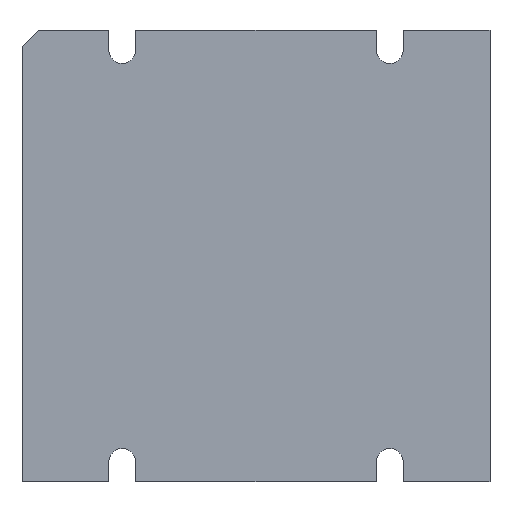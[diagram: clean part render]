
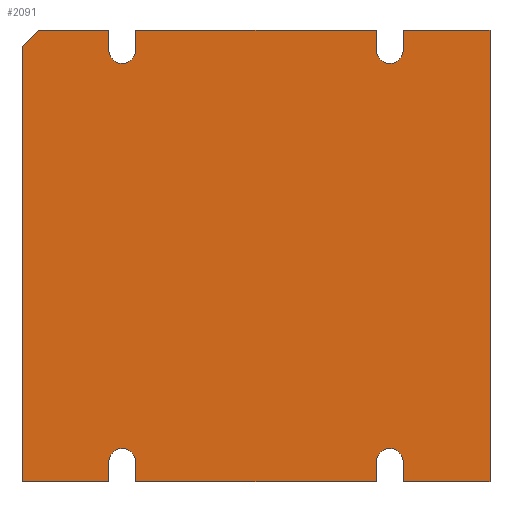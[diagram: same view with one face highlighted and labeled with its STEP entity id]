
A CAD part, front view. The second image highlights one B-rep face of the part: STEP entity #2091.
In plain terms, the highlighted planar face has unit normal (0, -1, 0).
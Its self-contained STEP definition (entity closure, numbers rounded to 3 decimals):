
#46=CIRCLE('',#2254,1.65);
#47=CIRCLE('',#2259,1.65);
#49=CIRCLE('',#2263,1.65);
#50=CIRCLE('',#2270,1.65);
#186=FACE_OUTER_BOUND('',#315,.T.);
#315=EDGE_LOOP('',(#1541,#1542,#1543,#1544,#1545,#1546,#1547,#1548,#1549,
#1550,#1551,#1552,#1553,#1554,#1555,#1556,#1557,#1558,#1559,#1560,#1561));
#473=LINE('',#3222,#687);
#475=LINE('',#3226,#689);
#478=LINE('',#3234,#692);
#480=LINE('',#3238,#694);
#484=LINE('',#3246,#698);
#489=LINE('',#3260,#703);
#492=LINE('',#3268,#706);
#494=LINE('',#3272,#708);
#496=LINE('',#3276,#710);
#498=LINE('',#3279,#712);
#500=LINE('',#3285,#714);
#508=LINE('',#3302,#722);
#513=LINE('',#3317,#727);
#519=LINE('',#3329,#733);
#521=LINE('',#3333,#735);
#522=LINE('',#3335,#736);
#523=LINE('',#3336,#737);
#687=VECTOR('',#2574,10.);
#689=VECTOR('',#2578,10.);
#692=VECTOR('',#2587,10.);
#694=VECTOR('',#2591,10.);
#698=VECTOR('',#2597,10.);
#703=VECTOR('',#2610,10.);
#706=VECTOR('',#2619,10.);
#708=VECTOR('',#2623,10.);
#710=VECTOR('',#2627,10.);
#712=VECTOR('',#2631,10.);
#714=VECTOR('',#2635,10.);
#722=VECTOR('',#2653,10.);
#727=VECTOR('',#2668,10.);
#733=VECTOR('',#2678,10.);
#735=VECTOR('',#2682,10.);
#736=VECTOR('',#2683,10.);
#737=VECTOR('',#2684,10.);
#894=VERTEX_POINT('',#3219);
#895=VERTEX_POINT('',#3221);
#896=VERTEX_POINT('',#3225);
#897=VERTEX_POINT('',#3229);
#898=VERTEX_POINT('',#3233);
#899=VERTEX_POINT('',#3237);
#902=VERTEX_POINT('',#3245);
#904=VERTEX_POINT('',#3251);
#906=VERTEX_POINT('',#3257);
#907=VERTEX_POINT('',#3259);
#908=VERTEX_POINT('',#3263);
#909=VERTEX_POINT('',#3267);
#910=VERTEX_POINT('',#3271);
#911=VERTEX_POINT('',#3275);
#913=VERTEX_POINT('',#3282);
#914=VERTEX_POINT('',#3284);
#917=VERTEX_POINT('',#3291);
#923=VERTEX_POINT('',#3316);
#926=VERTEX_POINT('',#3326);
#928=VERTEX_POINT('',#3332);
#929=VERTEX_POINT('',#3334);
#1109=EDGE_CURVE('',#894,#895,#473,.T.);
#1111=EDGE_CURVE('',#896,#895,#475,.T.);
#1113=EDGE_CURVE('',#897,#896,#46,.T.);
#1115=EDGE_CURVE('',#898,#897,#478,.T.);
#1117=EDGE_CURVE('',#898,#899,#480,.T.);
#1121=EDGE_CURVE('',#902,#899,#484,.T.);
#1124=EDGE_CURVE('',#904,#902,#47,.T.);
#1128=EDGE_CURVE('',#907,#906,#489,.T.);
#1130=EDGE_CURVE('',#908,#907,#49,.T.);
#1132=EDGE_CURVE('',#909,#908,#492,.T.);
#1134=EDGE_CURVE('',#909,#910,#494,.T.);
#1136=EDGE_CURVE('',#910,#911,#496,.T.);
#1138=EDGE_CURVE('',#911,#894,#498,.T.);
#1140=EDGE_CURVE('',#914,#913,#500,.T.);
#1144=EDGE_CURVE('',#913,#917,#50,.T.);
#1150=EDGE_CURVE('',#914,#906,#508,.T.);
#1157=EDGE_CURVE('',#923,#904,#513,.T.);
#1163=EDGE_CURVE('',#917,#926,#519,.T.);
#1165=EDGE_CURVE('',#928,#926,#521,.T.);
#1166=EDGE_CURVE('',#929,#928,#522,.T.);
#1167=EDGE_CURVE('',#923,#929,#523,.T.);
#1541=ORIENTED_EDGE('',*,*,#1138,.F.);
#1542=ORIENTED_EDGE('',*,*,#1136,.F.);
#1543=ORIENTED_EDGE('',*,*,#1134,.F.);
#1544=ORIENTED_EDGE('',*,*,#1132,.T.);
#1545=ORIENTED_EDGE('',*,*,#1130,.T.);
#1546=ORIENTED_EDGE('',*,*,#1128,.T.);
#1547=ORIENTED_EDGE('',*,*,#1150,.F.);
#1548=ORIENTED_EDGE('',*,*,#1140,.T.);
#1549=ORIENTED_EDGE('',*,*,#1144,.T.);
#1550=ORIENTED_EDGE('',*,*,#1163,.T.);
#1551=ORIENTED_EDGE('',*,*,#1165,.F.);
#1552=ORIENTED_EDGE('',*,*,#1166,.F.);
#1553=ORIENTED_EDGE('',*,*,#1167,.F.);
#1554=ORIENTED_EDGE('',*,*,#1157,.T.);
#1555=ORIENTED_EDGE('',*,*,#1124,.T.);
#1556=ORIENTED_EDGE('',*,*,#1121,.T.);
#1557=ORIENTED_EDGE('',*,*,#1117,.F.);
#1558=ORIENTED_EDGE('',*,*,#1115,.T.);
#1559=ORIENTED_EDGE('',*,*,#1113,.T.);
#1560=ORIENTED_EDGE('',*,*,#1111,.T.);
#1561=ORIENTED_EDGE('',*,*,#1109,.F.);
#1913=PLANE('',#2281);
#2091=ADVANCED_FACE('',(#186),#1913,.F.);
#2254=AXIS2_PLACEMENT_3D('',#3230,#2582,#2583);
#2259=AXIS2_PLACEMENT_3D('',#3252,#2602,#2603);
#2263=AXIS2_PLACEMENT_3D('',#3264,#2614,#2615);
#2270=AXIS2_PLACEMENT_3D('',#3293,#2641,#2642);
#2281=AXIS2_PLACEMENT_3D('',#3331,#2680,#2681);
#2574=DIRECTION('',(1.,0.,0.));
#2578=DIRECTION('',(0.,0.,1.));
#2582=DIRECTION('center_axis',(0.,1.,0.));
#2583=DIRECTION('ref_axis',(1.,0.,0.));
#2587=DIRECTION('',(0.,0.,-1.));
#2591=DIRECTION('',(1.,0.,0.));
#2597=DIRECTION('',(0.,0.,1.));
#2602=DIRECTION('center_axis',(0.,1.,0.));
#2603=DIRECTION('ref_axis',(1.,0.,0.));
#2610=DIRECTION('',(0.,0.,-1.));
#2614=DIRECTION('center_axis',(0.,1.,0.));
#2615=DIRECTION('ref_axis',(1.,0.,0.));
#2619=DIRECTION('',(0.,0.,1.));
#2623=DIRECTION('',(-1.,0.,0.));
#2627=DIRECTION('',(0.,0.,1.));
#2631=DIRECTION('',(0.707,0.,0.707));
#2635=DIRECTION('',(0.,0.,1.));
#2641=DIRECTION('center_axis',(0.,1.,0.));
#2642=DIRECTION('ref_axis',(1.,0.,0.));
#2653=DIRECTION('',(-1.,0.,0.));
#2668=DIRECTION('',(0.,0.,-1.));
#2678=DIRECTION('',(0.,0.,-1.));
#2680=DIRECTION('center_axis',(0.,1.,0.));
#2681=DIRECTION('ref_axis',(0.,0.,1.));
#2682=DIRECTION('',(-1.,0.,0.));
#2683=DIRECTION('',(0.,0.,-1.));
#2684=DIRECTION('',(1.,0.,0.));
#3219=CARTESIAN_POINT('',(-26.95,0.,27.95));
#3221=CARTESIAN_POINT('',(-18.2,0.,27.95));
#3222=CARTESIAN_POINT('',(-28.95,0.,27.95));
#3225=CARTESIAN_POINT('',(-18.2,0.,25.45));
#3226=CARTESIAN_POINT('',(-18.2,0.,13.975));
#3229=CARTESIAN_POINT('',(-14.9,0.,25.45));
#3230=CARTESIAN_POINT('Origin',(-16.55,0.,25.45));
#3233=CARTESIAN_POINT('',(-14.9,0.,27.95));
#3234=CARTESIAN_POINT('',(-14.9,0.,12.725));
#3237=CARTESIAN_POINT('',(14.9,0.,27.95));
#3238=CARTESIAN_POINT('',(-28.95,0.,27.95));
#3245=CARTESIAN_POINT('',(14.9,0.,25.45));
#3246=CARTESIAN_POINT('',(14.9,0.,13.975));
#3251=CARTESIAN_POINT('',(18.2,0.,25.45));
#3252=CARTESIAN_POINT('Origin',(16.55,0.,25.45));
#3257=CARTESIAN_POINT('',(-14.9,0.,-27.95));
#3259=CARTESIAN_POINT('',(-14.9,0.,-25.45));
#3260=CARTESIAN_POINT('',(-14.9,0.,-12.725));
#3263=CARTESIAN_POINT('',(-18.2,0.,-25.45));
#3264=CARTESIAN_POINT('Origin',(-16.55,0.,-25.45));
#3267=CARTESIAN_POINT('',(-18.2,0.,-27.95));
#3268=CARTESIAN_POINT('',(-18.2,0.,-13.975));
#3271=CARTESIAN_POINT('',(-28.95,0.,-27.95));
#3272=CARTESIAN_POINT('',(28.95,0.,-27.95));
#3275=CARTESIAN_POINT('',(-28.95,0.,25.95));
#3276=CARTESIAN_POINT('',(-28.95,0.,-27.95));
#3279=CARTESIAN_POINT('',(-27.7,0.,27.2));
#3282=CARTESIAN_POINT('',(14.9,0.,-25.45));
#3284=CARTESIAN_POINT('',(14.9,0.,-27.95));
#3285=CARTESIAN_POINT('',(14.9,0.,-13.975));
#3291=CARTESIAN_POINT('',(18.2,0.,-25.45));
#3293=CARTESIAN_POINT('Origin',(16.55,0.,-25.45));
#3302=CARTESIAN_POINT('',(28.95,0.,-27.95));
#3316=CARTESIAN_POINT('',(18.2,0.,27.95));
#3317=CARTESIAN_POINT('',(18.2,0.,12.725));
#3326=CARTESIAN_POINT('',(18.2,0.,-27.95));
#3329=CARTESIAN_POINT('',(18.2,0.,-12.725));
#3331=CARTESIAN_POINT('Origin',(0.,0.,0.));
#3332=CARTESIAN_POINT('',(28.95,0.,-27.95));
#3333=CARTESIAN_POINT('',(28.95,0.,-27.95));
#3334=CARTESIAN_POINT('',(28.95,0.,27.95));
#3335=CARTESIAN_POINT('',(28.95,0.,27.95));
#3336=CARTESIAN_POINT('',(-28.95,0.,27.95));
